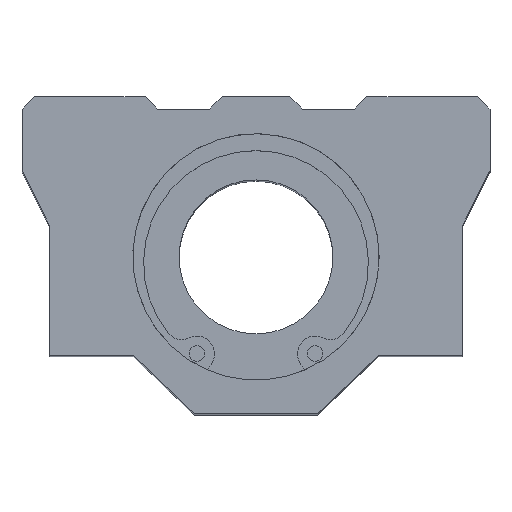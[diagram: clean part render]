
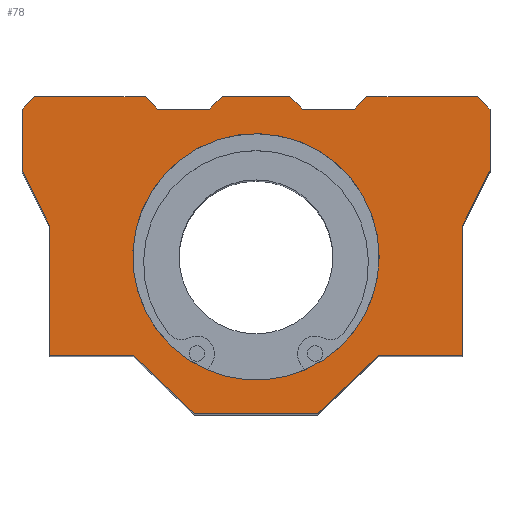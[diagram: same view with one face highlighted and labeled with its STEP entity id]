
A CAD part, top view. The second image highlights one B-rep face of the part: STEP entity #78.
In plain terms, the highlighted planar face has unit normal (0, 0, 1).
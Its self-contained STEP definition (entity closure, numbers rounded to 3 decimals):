
#78=ADVANCED_FACE('',(#150,#151),#152,.T.);
#150=FACE_OUTER_BOUND('',#311,.T.);
#151=FACE_BOUND('',#312,.T.);
#152=PLANE('',#313);
#311=EDGE_LOOP('',(#508,#509,#510,#511,#512,#513,#514,#515,#516,#517,#518,#519,#520,#521,#522,#523,#524,#525,#526,#527,#528,#529));
#312=EDGE_LOOP('',(#530));
#313=AXIS2_PLACEMENT_3D('',#531,#532,#533);
#508=ORIENTED_EDGE('',*,*,#993,.T.);
#509=ORIENTED_EDGE('',*,*,#994,.T.);
#510=ORIENTED_EDGE('',*,*,#995,.T.);
#511=ORIENTED_EDGE('',*,*,#996,.T.);
#512=ORIENTED_EDGE('',*,*,#997,.T.);
#513=ORIENTED_EDGE('',*,*,#998,.T.);
#514=ORIENTED_EDGE('',*,*,#999,.T.);
#515=ORIENTED_EDGE('',*,*,#1000,.T.);
#516=ORIENTED_EDGE('',*,*,#1001,.T.);
#517=ORIENTED_EDGE('',*,*,#1002,.T.);
#518=ORIENTED_EDGE('',*,*,#1003,.T.);
#519=ORIENTED_EDGE('',*,*,#1004,.T.);
#520=ORIENTED_EDGE('',*,*,#1005,.T.);
#521=ORIENTED_EDGE('',*,*,#1006,.T.);
#522=ORIENTED_EDGE('',*,*,#1007,.T.);
#523=ORIENTED_EDGE('',*,*,#1008,.T.);
#524=ORIENTED_EDGE('',*,*,#1009,.T.);
#525=ORIENTED_EDGE('',*,*,#1010,.T.);
#526=ORIENTED_EDGE('',*,*,#1011,.T.);
#527=ORIENTED_EDGE('',*,*,#1012,.T.);
#528=ORIENTED_EDGE('',*,*,#1013,.T.);
#529=ORIENTED_EDGE('',*,*,#1014,.T.);
#530=ORIENTED_EDGE('',*,*,#1015,.T.);
#531=CARTESIAN_POINT('',(-27.0,35.0,65.0));
#532=DIRECTION('',(0.0,-0.0,1.0));
#533=DIRECTION('',(0.0,1.0,0.0));
#993=EDGE_CURVE('',#1178,#1179,#1180,.T.);
#994=EDGE_CURVE('',#1179,#1181,#1182,.T.);
#995=EDGE_CURVE('',#1181,#1183,#1184,.T.);
#996=EDGE_CURVE('',#1183,#1185,#1186,.T.);
#997=EDGE_CURVE('',#1185,#1187,#1188,.T.);
#998=EDGE_CURVE('',#1187,#1189,#1190,.T.);
#999=EDGE_CURVE('',#1189,#1191,#1192,.T.);
#1000=EDGE_CURVE('',#1191,#1193,#1194,.T.);
#1001=EDGE_CURVE('',#1193,#1195,#1196,.T.);
#1002=EDGE_CURVE('',#1195,#1197,#1198,.T.);
#1003=EDGE_CURVE('',#1197,#1199,#1200,.T.);
#1004=EDGE_CURVE('',#1199,#1201,#1202,.T.);
#1005=EDGE_CURVE('',#1201,#1203,#1204,.T.);
#1006=EDGE_CURVE('',#1203,#1205,#1206,.T.);
#1007=EDGE_CURVE('',#1205,#1207,#1208,.T.);
#1008=EDGE_CURVE('',#1207,#1209,#1210,.T.);
#1009=EDGE_CURVE('',#1209,#1211,#1212,.T.);
#1010=EDGE_CURVE('',#1211,#1213,#1214,.T.);
#1011=EDGE_CURVE('',#1213,#1215,#1216,.T.);
#1012=EDGE_CURVE('',#1215,#1217,#1218,.T.);
#1013=EDGE_CURVE('',#1217,#1219,#1220,.T.);
#1014=EDGE_CURVE('',#1219,#1178,#1221,.T.);
#1015=EDGE_CURVE('',#1222,#1222,#1223,.F.);
#1178=VERTEX_POINT('',#1460);
#1179=VERTEX_POINT('',#1461);
#1180=LINE('',#1462,#1463);
#1181=VERTEX_POINT('',#1464);
#1182=LINE('',#1465,#1466);
#1183=VERTEX_POINT('',#1467);
#1184=LINE('',#1468,#1469);
#1185=VERTEX_POINT('',#1470);
#1186=LINE('',#1471,#1472);
#1187=VERTEX_POINT('',#1473);
#1188=LINE('',#1474,#1475);
#1189=VERTEX_POINT('',#1476);
#1190=LINE('',#1477,#1478);
#1191=VERTEX_POINT('',#1479);
#1192=LINE('',#1480,#1481);
#1193=VERTEX_POINT('',#1482);
#1194=LINE('',#1483,#1484);
#1195=VERTEX_POINT('',#1485);
#1196=LINE('',#1486,#1487);
#1197=VERTEX_POINT('',#1488);
#1198=LINE('',#1489,#1490);
#1199=VERTEX_POINT('',#1491);
#1200=LINE('',#1492,#1493);
#1201=VERTEX_POINT('',#1494);
#1202=LINE('',#1495,#1496);
#1203=VERTEX_POINT('',#1497);
#1204=LINE('',#1498,#1499);
#1205=VERTEX_POINT('',#1500);
#1206=LINE('',#1501,#1502);
#1207=VERTEX_POINT('',#1503);
#1208=LINE('',#1504,#1505);
#1209=VERTEX_POINT('',#1506);
#1210=LINE('',#1507,#1508);
#1211=VERTEX_POINT('',#1509);
#1212=LINE('',#1510,#1511);
#1213=VERTEX_POINT('',#1512);
#1214=LINE('',#1513,#1514);
#1215=VERTEX_POINT('',#1515);
#1216=LINE('',#1516,#1517);
#1217=VERTEX_POINT('',#1518);
#1218=LINE('',#1519,#1520);
#1219=VERTEX_POINT('',#1521);
#1220=LINE('',#1522,#1523);
#1221=LINE('',#1524,#1525);
#1222=VERTEX_POINT('',#1526);
#1223=CIRCLE('',#1527,20.0);
#1460=CARTESIAN_POINT('',(-16.0,24.0,65.0));
#1461=CARTESIAN_POINT('',(-18.0,26.0,65.0));
#1462=CARTESIAN_POINT('',(-16.0,24.0,65.0));
#1463=VECTOR('',#1775,1.0);
#1464=CARTESIAN_POINT('',(-36.0,26.0,65.0));
#1465=CARTESIAN_POINT('',(-18.0,26.0,65.0));
#1466=VECTOR('',#1776,1.0);
#1467=CARTESIAN_POINT('',(-38.0,24.0,65.0));
#1468=CARTESIAN_POINT('',(-36.0,26.0,65.0));
#1469=VECTOR('',#1777,1.0);
#1470=CARTESIAN_POINT('',(-38.0,14.0,65.0));
#1471=CARTESIAN_POINT('',(-38.0,24.0,65.0));
#1472=VECTOR('',#1778,1.0);
#1473=CARTESIAN_POINT('',(-33.5,5.0,65.0));
#1474=CARTESIAN_POINT('',(-38.0,14.0,65.0));
#1475=VECTOR('',#1779,1.0);
#1476=CARTESIAN_POINT('',(-33.5,-16.0,65.0));
#1477=CARTESIAN_POINT('',(-33.5,5.0,65.0));
#1478=VECTOR('',#1780,1.0);
#1479=CARTESIAN_POINT('',(-19.952,-16.0,65.0));
#1480=CARTESIAN_POINT('',(-33.5,-16.0,65.0));
#1481=VECTOR('',#1781,1.0);
#1482=CARTESIAN_POINT('',(-10.0,-25.5,65.0));
#1483=CARTESIAN_POINT('',(-19.952,-16.0,65.0));
#1484=VECTOR('',#1782,1.0);
#1485=CARTESIAN_POINT('',(10.0,-25.5,65.0));
#1486=CARTESIAN_POINT('',(-10.0,-25.5,65.0));
#1487=VECTOR('',#1783,1.0);
#1488=CARTESIAN_POINT('',(19.952,-16.0,65.0));
#1489=CARTESIAN_POINT('',(10.0,-25.5,65.0));
#1490=VECTOR('',#1784,1.0);
#1491=CARTESIAN_POINT('',(33.5,-16.0,65.0));
#1492=CARTESIAN_POINT('',(19.952,-16.0,65.0));
#1493=VECTOR('',#1785,1.0);
#1494=CARTESIAN_POINT('',(33.5,5.0,65.0));
#1495=CARTESIAN_POINT('',(33.5,-16.0,65.0));
#1496=VECTOR('',#1786,1.0);
#1497=CARTESIAN_POINT('',(38.0,14.0,65.0));
#1498=CARTESIAN_POINT('',(33.5,5.0,65.0));
#1499=VECTOR('',#1787,1.0);
#1500=CARTESIAN_POINT('',(38.0,24.0,65.0));
#1501=CARTESIAN_POINT('',(38.0,14.0,65.0));
#1502=VECTOR('',#1788,1.0);
#1503=CARTESIAN_POINT('',(36.0,26.0,65.0));
#1504=CARTESIAN_POINT('',(38.0,24.0,65.0));
#1505=VECTOR('',#1789,1.0);
#1506=CARTESIAN_POINT('',(18.0,26.0,65.0));
#1507=CARTESIAN_POINT('',(36.0,26.0,65.0));
#1508=VECTOR('',#1790,1.0);
#1509=CARTESIAN_POINT('',(16.0,24.0,65.0));
#1510=CARTESIAN_POINT('',(18.0,26.0,65.0));
#1511=VECTOR('',#1791,1.0);
#1512=CARTESIAN_POINT('',(7.5,24.0,65.0));
#1513=CARTESIAN_POINT('',(16.0,24.0,65.0));
#1514=VECTOR('',#1792,1.0);
#1515=CARTESIAN_POINT('',(5.5,26.0,65.0));
#1516=CARTESIAN_POINT('',(7.5,24.0,65.0));
#1517=VECTOR('',#1793,1.0);
#1518=CARTESIAN_POINT('',(-5.5,26.0,65.0));
#1519=CARTESIAN_POINT('',(5.5,26.0,65.0));
#1520=VECTOR('',#1794,1.0);
#1521=CARTESIAN_POINT('',(-7.5,24.0,65.0));
#1522=CARTESIAN_POINT('',(-5.5,26.0,65.0));
#1523=VECTOR('',#1795,1.0);
#1524=CARTESIAN_POINT('',(-7.5,24.0,65.0));
#1525=VECTOR('',#1796,1.0);
#1526=CARTESIAN_POINT('',(20.0,0.,65.0));
#1527=AXIS2_PLACEMENT_3D('',#1797,#1798,#1799);
#1775=DIRECTION('',(-0.707,0.707,0.0));
#1776=DIRECTION('',(-1.0,0.0,0.0));
#1777=DIRECTION('',(-0.707,-0.707,0.0));
#1778=DIRECTION('',(0.0,-1.0,0.0));
#1779=DIRECTION('',(0.447,-0.894,0.0));
#1780=DIRECTION('',(0.0,-1.0,0.0));
#1781=DIRECTION('',(1.0,0.0,0.0));
#1782=DIRECTION('',(0.723,-0.69,0.0));
#1783=DIRECTION('',(1.0,0.0,0.0));
#1784=DIRECTION('',(0.723,0.69,0.0));
#1785=DIRECTION('',(1.0,0.0,0.0));
#1786=DIRECTION('',(0.0,1.0,0.0));
#1787=DIRECTION('',(0.447,0.894,0.0));
#1788=DIRECTION('',(0.0,1.0,0.0));
#1789=DIRECTION('',(-0.707,0.707,0.0));
#1790=DIRECTION('',(-1.0,0.0,0.0));
#1791=DIRECTION('',(-0.707,-0.707,0.0));
#1792=DIRECTION('',(-1.0,0.0,0.0));
#1793=DIRECTION('',(-0.707,0.707,0.0));
#1794=DIRECTION('',(-1.0,0.0,0.0));
#1795=DIRECTION('',(-0.707,-0.707,0.0));
#1796=DIRECTION('',(-1.0,0.0,0.0));
#1797=CARTESIAN_POINT('',(0.0,0.0,65.0));
#1798=DIRECTION('',(0.0,0.0,1.0));
#1799=DIRECTION('',(1.0,0.0,0.0));
